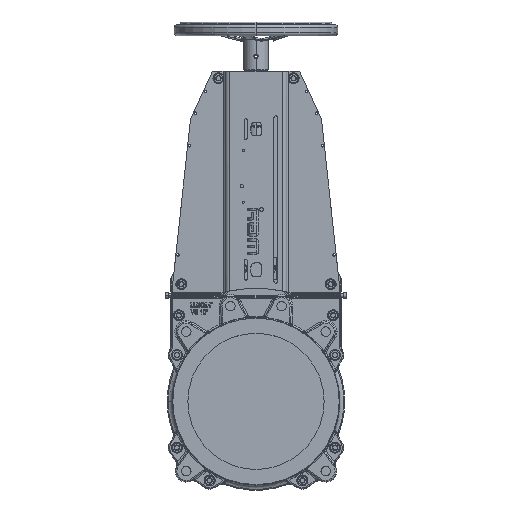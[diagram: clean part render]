
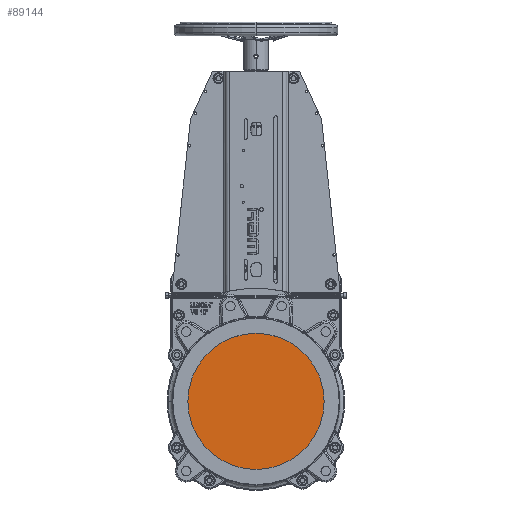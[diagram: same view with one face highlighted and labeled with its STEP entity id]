
A CAD part, top view. The second image highlights one B-rep face of the part: STEP entity #89144.
In plain terms, the highlighted planar face has unit normal (0, 0, 1).
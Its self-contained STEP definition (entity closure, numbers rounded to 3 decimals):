
#11073 = FACE_OUTER_BOUND ( 'NONE', #110847, .T. ) ;
#13288 = DIRECTION ( 'NONE',  ( 0., 0., 1. ) ) ;
#15047 = AXIS2_PLACEMENT_3D ( 'NONE', #104520, #33664, #116488 ) ;
#16068 = DIRECTION ( 'NONE',  ( 0., 0., -1. ) ) ;
#23261 = VERTEX_POINT ( 'NONE', #112940 ) ;
#24954 = CIRCLE ( 'NONE', #15047, 125. ) ;
#33664 = DIRECTION ( 'NONE',  ( 0., 0., 1. ) ) ;
#40644 = CIRCLE ( 'NONE', #120554, 125. ) ;
#61057 = ORIENTED_EDGE ( 'NONE', *, *, #129974, .T. ) ;
#61351 = AXIS2_PLACEMENT_3D ( 'NONE', #87036, #16068, #98889 ) ;
#84285 = CARTESIAN_POINT ( 'NONE',  ( 0., 0., -0.25 ) ) ;
#87036 = CARTESIAN_POINT ( 'NONE',  ( 0., 83., -0.25 ) ) ;
#89144 = ADVANCED_FACE ( 'NONE', ( #11073 ), #109785, .F. ) ;
#96162 = DIRECTION ( 'NONE',  ( 1., 0., 0. ) ) ;
#98889 = DIRECTION ( 'NONE',  ( -1., 0., 0. ) ) ;
#104520 = CARTESIAN_POINT ( 'NONE',  ( 0., 0., -0.25 ) ) ;
#109785 = PLANE ( 'NONE',  #61351 ) ;
#110847 = EDGE_LOOP ( 'NONE', ( #147969, #61057 ) ) ;
#112940 = CARTESIAN_POINT ( 'NONE',  ( 125., 0., -0.25 ) ) ;
#116488 = DIRECTION ( 'NONE',  ( 1., 0., 0. ) ) ;
#117117 = EDGE_CURVE ( 'NONE', #23261, #148974, #24954, .T. ) ;
#120554 = AXIS2_PLACEMENT_3D ( 'NONE', #84285, #13288, #96162 ) ;
#129974 = EDGE_CURVE ( 'NONE', #148974, #23261, #40644, .T. ) ;
#141387 = CARTESIAN_POINT ( 'NONE',  ( -125., 0., -0.25 ) ) ;
#147969 = ORIENTED_EDGE ( 'NONE', *, *, #117117, .T. ) ;
#148974 = VERTEX_POINT ( 'NONE', #141387 ) ;
